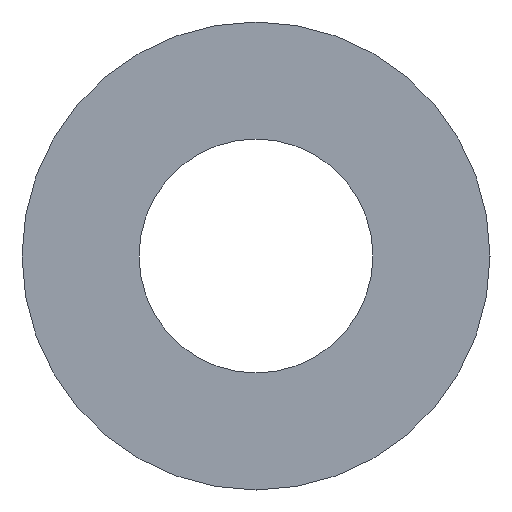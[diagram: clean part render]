
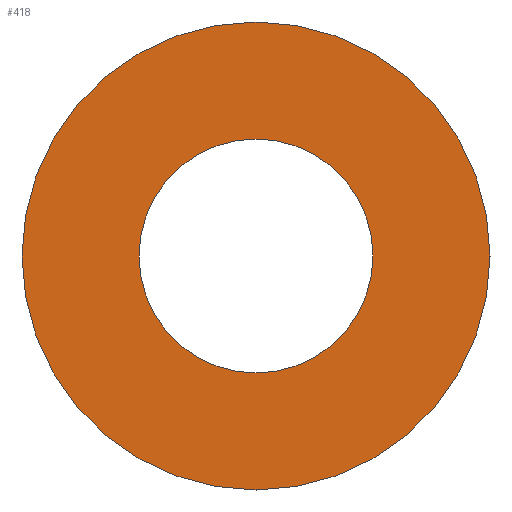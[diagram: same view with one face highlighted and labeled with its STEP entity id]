
A CAD part, front view. The second image highlights one B-rep face of the part: STEP entity #418.
In plain terms, the highlighted planar face has unit normal (0, -1, 0).
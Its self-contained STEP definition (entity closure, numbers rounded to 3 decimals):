
#70 = DIRECTION ( 'NONE',  ( 0., -1., 0. ) ) ;
#114 = CARTESIAN_POINT ( 'NONE',  ( 0., -14., 12.5 ) ) ;
#130 = DIRECTION ( 'NONE',  ( 0., 0., -1. ) ) ;
#152 = ORIENTED_EDGE ( 'NONE', *, *, #558, .F. ) ;
#327 = AXIS2_PLACEMENT_3D ( 'NONE', #1145, #70, #1358 ) ;
#329 = CARTESIAN_POINT ( 'NONE',  ( 0., -14., 0. ) ) ;
#341 = DIRECTION ( 'NONE',  ( 0., 0., 1. ) ) ;
#418 = ADVANCED_FACE ( 'NONE', ( #1625, #2829 ), #2726, .F. ) ;
#460 = CARTESIAN_POINT ( 'NONE',  ( 0., -14., 12.5 ) ) ;
#536 = CARTESIAN_POINT ( 'NONE',  ( 0., -14., -25. ) ) ;
#558 = EDGE_CURVE ( 'NONE', #765, #2419, #1959, .T. ) ;
#570 = DIRECTION ( 'NONE',  ( 0., -1., 0. ) ) ;
#665 = CIRCLE ( 'NONE', #327, 25. ) ;
#765 = VERTEX_POINT ( 'NONE', #460 ) ;
#808 = CARTESIAN_POINT ( 'NONE',  ( 0., -14., 0. ) ) ;
#992 = DIRECTION ( 'NONE',  ( 0., -1., 0. ) ) ;
#998 = CIRCLE ( 'NONE', #1090, 25. ) ;
#1090 = AXIS2_PLACEMENT_3D ( 'NONE', #329, #570, #2778 ) ;
#1145 = CARTESIAN_POINT ( 'NONE',  ( 0., -14., 0. ) ) ;
#1263 = CIRCLE ( 'NONE', #1345, 12.5 ) ;
#1345 = AXIS2_PLACEMENT_3D ( 'NONE', #2314, #992, #2536 ) ;
#1358 = DIRECTION ( 'NONE',  ( 0., 0., -1. ) ) ;
#1402 = DIRECTION ( 'NONE',  ( 0., 1., 0. ) ) ;
#1519 = VERTEX_POINT ( 'NONE', #2556 ) ;
#1533 = EDGE_CURVE ( 'NONE', #2419, #765, #1263, .T. ) ;
#1625 = FACE_BOUND ( 'NONE', #2572, .T. ) ;
#1865 = EDGE_CURVE ( 'NONE', #1519, #2192, #665, .T. ) ;
#1899 = ORIENTED_EDGE ( 'NONE', *, *, #1865, .T. ) ;
#1905 = AXIS2_PLACEMENT_3D ( 'NONE', #808, #2144, #130 ) ;
#1959 = CIRCLE ( 'NONE', #1905, 12.5 ) ;
#2144 = DIRECTION ( 'NONE',  ( 0., -1., 0. ) ) ;
#2174 = AXIS2_PLACEMENT_3D ( 'NONE', #114, #1402, #341 ) ;
#2192 = VERTEX_POINT ( 'NONE', #536 ) ;
#2202 = EDGE_CURVE ( 'NONE', #2192, #1519, #998, .T. ) ;
#2314 = CARTESIAN_POINT ( 'NONE',  ( 0., -14., 0. ) ) ;
#2365 = CARTESIAN_POINT ( 'NONE',  ( 0., -14., -12.5 ) ) ;
#2419 = VERTEX_POINT ( 'NONE', #2365 ) ;
#2527 = EDGE_LOOP ( 'NONE', ( #2543, #1899 ) ) ;
#2536 = DIRECTION ( 'NONE',  ( 0., 0., -1. ) ) ;
#2543 = ORIENTED_EDGE ( 'NONE', *, *, #2202, .T. ) ;
#2556 = CARTESIAN_POINT ( 'NONE',  ( 0., -14., 25. ) ) ;
#2572 = EDGE_LOOP ( 'NONE', ( #2877, #152 ) ) ;
#2726 = PLANE ( 'NONE',  #2174 ) ;
#2778 = DIRECTION ( 'NONE',  ( 0., 0., -1. ) ) ;
#2829 = FACE_OUTER_BOUND ( 'NONE', #2527, .T. ) ;
#2877 = ORIENTED_EDGE ( 'NONE', *, *, #1533, .F. ) ;
